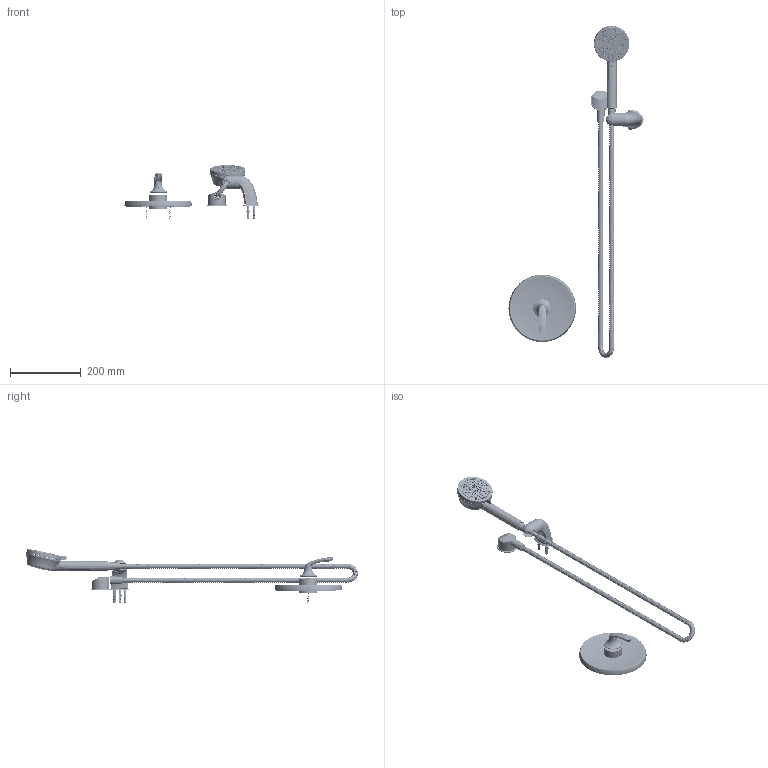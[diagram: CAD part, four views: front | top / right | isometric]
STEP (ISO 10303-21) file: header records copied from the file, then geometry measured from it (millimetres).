
FILE_DESCRIPTION (( 'STEP AP203' ), '1' );
FILE_NAME ('5593.STEP', '2025-01-16T21:54:37', ( '' ), ( '' ), 'SwSTEP 2.0', 'SolidWorks 2023', '' );
FILE_SCHEMA (( 'CONFIG_CONTROL_DESIGN' ));
Length unit declared in the file: inch
Products named in the file (1): 5593
Bounding box: 381.69 x 938.14 x 151.97 mm (x, y, z)
Surface area: 308949.1 mm2 (no closed solid volume)
Topology: 0 solids, 264 shells, 1495 faces, 5334 edges, 3923 vertices
Faces by surface type: plane 427, bspline 364, cylinder 330, cone 306, torus 47, sphere 21
Entity records: 243443 total; most frequent: CARTESIAN_POINT 203732, ORIENTED_EDGE 7796, DIRECTION 6606, EDGE_CURVE 5327, VERTEX_POINT 3923, AXIS2_PLACEMENT_3D 2454, B_SPLINE_CURVE_WITH_KNOTS 2145, EDGE_LOOP 1832
